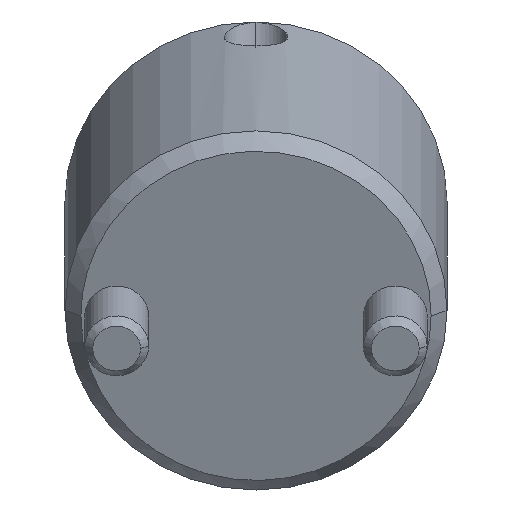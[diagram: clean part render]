
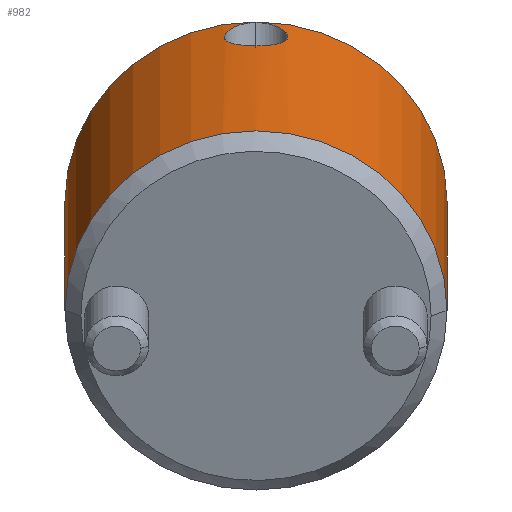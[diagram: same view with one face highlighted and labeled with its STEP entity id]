
A CAD part, front view. The second image highlights one B-rep face of the part: STEP entity #982.
In plain terms, the highlighted cylindrical face has radius 12 mm (diameter 24 mm), a partial arc.
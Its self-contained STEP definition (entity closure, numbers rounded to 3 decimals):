
#760=CARTESIAN_POINT('Vertex',(0.,12.,1.)) ;
#763=CARTESIAN_POINT('Axis2P3D Location',(0.,0.,1.)) ;
#767=CARTESIAN_POINT('Vertex',(0.,-12.,1.)) ;
#907=CARTESIAN_POINT('Axis2P3D Location',(0.,0.,-1.1)) ;
#912=CARTESIAN_POINT('Line Origine',(0.,12.,-1.1)) ;
#916=CARTESIAN_POINT('Vertex',(0.,12.,21.)) ;
#919=CARTESIAN_POINT('Axis2P3D Location',(0.,0.,21.)) ;
#923=CARTESIAN_POINT('Vertex',(0.,-12.,21.)) ;
#926=CARTESIAN_POINT('Line Origine',(0.,-12.,-1.1)) ;
#938=CARTESIAN_POINT('Control Point',(12.,0.,20.893)) ;
#939=CARTESIAN_POINT('Control Point',(12.,0.268,20.893)) ;
#940=CARTESIAN_POINT('Control Point',(11.992,0.53,20.843)) ;
#941=CARTESIAN_POINT('Control Point',(11.978,0.783,20.744)) ;
#942=CARTESIAN_POINT('Control Point',(11.933,1.321,20.418)) ;
#943=CARTESIAN_POINT('Control Point',(11.879,1.716,19.904)) ;
#944=CARTESIAN_POINT('Control Point',(11.852,1.88,19.565)) ;
#945=CARTESIAN_POINT('Control Point',(11.824,2.049,18.918)) ;
#946=CARTESIAN_POINT('Control Point',(11.835,1.984,18.258)) ;
#947=CARTESIAN_POINT('Control Point',(11.848,1.909,17.977)) ;
#948=CARTESIAN_POINT('Control Point',(11.881,1.698,17.525)) ;
#949=CARTESIAN_POINT('Control Point',(11.923,1.368,17.161)) ;
#950=CARTESIAN_POINT('Control Point',(11.941,1.21,17.027)) ;
#951=CARTESIAN_POINT('Control Point',(11.97,0.887,16.819)) ;
#952=CARTESIAN_POINT('Control Point',(11.99,0.524,16.694)) ;
#953=CARTESIAN_POINT('Control Point',(11.997,0.351,16.655)) ;
#954=CARTESIAN_POINT('Control Point',(12.,0.177,16.636)) ;
#955=CARTESIAN_POINT('Control Point',(12.,0.,16.636)) ;
#956=CARTESIAN_POINT('Vertex',(12.,0.,20.893)) ;
#958=CARTESIAN_POINT('Vertex',(12.,0.,16.636)) ;
#962=CARTESIAN_POINT('Control Point',(12.,0.,16.636)) ;
#963=CARTESIAN_POINT('Control Point',(12.,-0.345,16.636)) ;
#964=CARTESIAN_POINT('Control Point',(11.988,-0.682,16.709)) ;
#965=CARTESIAN_POINT('Control Point',(11.963,-1.01,16.859)) ;
#966=CARTESIAN_POINT('Control Point',(11.902,-1.572,17.29)) ;
#967=CARTESIAN_POINT('Control Point',(11.849,-1.907,17.922)) ;
#968=CARTESIAN_POINT('Control Point',(11.831,-2.004,18.275)) ;
#969=CARTESIAN_POINT('Control Point',(11.824,-2.05,19.014)) ;
#970=CARTESIAN_POINT('Control Point',(11.863,-1.815,19.715)) ;
#971=CARTESIAN_POINT('Control Point',(11.893,-1.627,20.043)) ;
#972=CARTESIAN_POINT('Control Point',(11.944,-1.221,20.5)) ;
#973=CARTESIAN_POINT('Control Point',(11.983,-0.694,20.776)) ;
#974=CARTESIAN_POINT('Control Point',(11.994,-0.47,20.854)) ;
#975=CARTESIAN_POINT('Control Point',(12.,-0.237,20.893)) ;
#976=CARTESIAN_POINT('Control Point',(12.,0.,20.893)) ;
#764=DIRECTION('Axis2P3D Direction',(0.,0.,1.)) ;
#908=DIRECTION('Axis2P3D Direction',(0.,-0.,1.)) ;
#909=DIRECTION('Axis2P3D XDirection',(0.,-1.,0.)) ;
#913=DIRECTION('Vector Direction',(0.,0.,1.)) ;
#920=DIRECTION('Axis2P3D Direction',(0.,-0.,1.)) ;
#927=DIRECTION('Vector Direction',(0.,0.,1.)) ;
#765=AXIS2_PLACEMENT_3D('Circle Axis2P3D',#763,#764,$) ;
#910=AXIS2_PLACEMENT_3D('Cylinder Axis2P3D',#907,#908,#909) ;
#921=AXIS2_PLACEMENT_3D('Circle Axis2P3D',#919,#920,$) ;
#932=ORIENTED_EDGE('',*,*,#918,.F.) ;
#933=ORIENTED_EDGE('',*,*,#925,.T.) ;
#934=ORIENTED_EDGE('',*,*,#930,.T.) ;
#935=ORIENTED_EDGE('',*,*,#769,.F.) ;
#979=ORIENTED_EDGE('',*,*,#960,.T.) ;
#980=ORIENTED_EDGE('',*,*,#977,.T.) ;
#981=FACE_BOUND('',#978,.T.) ;
#914=VECTOR('Line Direction',#913,1.) ;
#928=VECTOR('Line Direction',#927,1.) ;
#982=ADVANCED_FACE('MANIFOLD_SOLID_BREP #1096',(#936,#981),#911,.T.) ;
#937=B_SPLINE_CURVE_WITH_KNOTS('',5,(#938,#939,#940,#941,#942,#943,#944,#945,#946,#947,#948,#949,#950,#951,#952,#953,#954,#955),.UNSPECIFIED.,.F.,.U.,(6,3,3,3,3,6),(0.,1.901,4.48,6.478,7.949,9.197),.UNSPECIFIED.) ;
#961=B_SPLINE_CURVE_WITH_KNOTS('',5,(#962,#963,#964,#965,#966,#967,#968,#969,#970,#971,#972,#973,#974,#975,#976),.UNSPECIFIED.,.F.,.U.,(6,3,3,3,6),(0.,2.447,4.948,7.517,9.195),.UNSPECIFIED.) ;
#766=CIRCLE('generated circle',#765,12.) ;
#922=CIRCLE('generated circle',#921,12.) ;
#911=CYLINDRICAL_SURFACE('generated cylinder',#910,12.) ;
#769=EDGE_CURVE('',#761,#768,#766,.F.) ;
#918=EDGE_CURVE('',#917,#761,#915,.F.) ;
#925=EDGE_CURVE('',#917,#924,#922,.F.) ;
#930=EDGE_CURVE('',#924,#768,#929,.F.) ;
#960=EDGE_CURVE('',#957,#959,#937,.T.) ;
#977=EDGE_CURVE('',#959,#957,#961,.T.) ;
#931=EDGE_LOOP('',(#932,#933,#934,#935)) ;
#978=EDGE_LOOP('',(#979,#980)) ;
#936=FACE_OUTER_BOUND('',#931,.T.) ;
#915=LINE('Line',#912,#914) ;
#929=LINE('Line',#926,#928) ;
#761=VERTEX_POINT('',#760) ;
#768=VERTEX_POINT('',#767) ;
#917=VERTEX_POINT('',#916) ;
#924=VERTEX_POINT('',#923) ;
#957=VERTEX_POINT('',#956) ;
#959=VERTEX_POINT('',#958) ;
